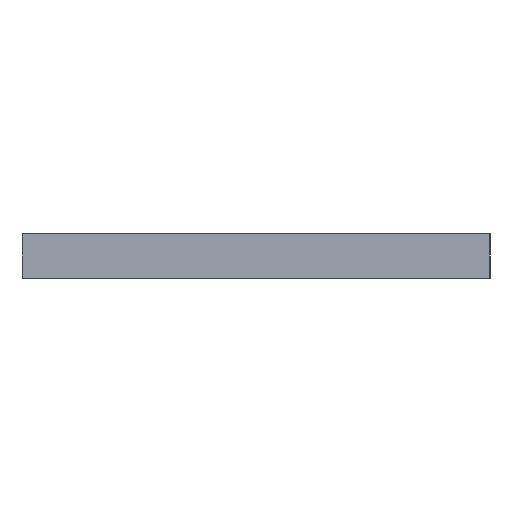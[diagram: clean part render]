
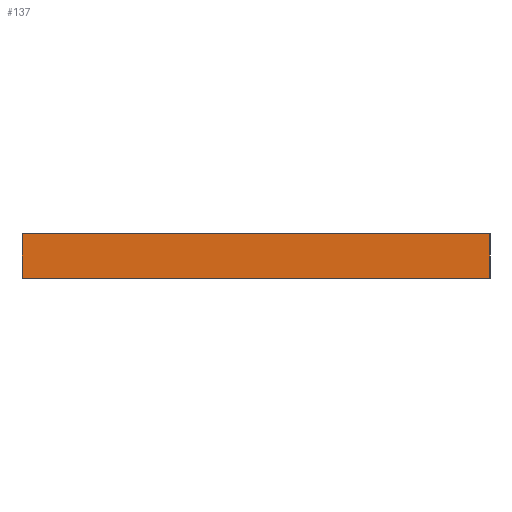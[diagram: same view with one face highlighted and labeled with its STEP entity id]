
A CAD part, left-side view. The second image highlights one B-rep face of the part: STEP entity #137.
In plain terms, the highlighted planar face has unit normal (-1, 0, 0).
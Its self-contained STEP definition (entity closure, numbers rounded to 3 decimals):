
#21 = EDGE_CURVE('',#22,#24,#26,.T.);
#22 = VERTEX_POINT('',#23);
#23 = CARTESIAN_POINT('',(-47.,34.,3.2));
#24 = VERTEX_POINT('',#25);
#25 = CARTESIAN_POINT('',(-47.,34.,0.));
#26 = SURFACE_CURVE('',#27,(#31,#43),.PCURVE_S1.);
#27 = LINE('',#28,#29);
#28 = CARTESIAN_POINT('',(-47.,34.,3.2));
#29 = VECTOR('',#30,1.);
#30 = DIRECTION('',(0.,0.,-1.));
#31 = PCURVE('',#32,#37);
#32 = PLANE('',#33);
#33 = AXIS2_PLACEMENT_3D('',#34,#35,#36);
#34 = CARTESIAN_POINT('',(-47.,34.,3.2));
#35 = DIRECTION('',(0.,-1.,0.));
#36 = DIRECTION('',(1.,0.,0.));
#37 = DEFINITIONAL_REPRESENTATION('',(#38),#42);
#38 = LINE('',#39,#40);
#39 = CARTESIAN_POINT('',(0.,0.));
#40 = VECTOR('',#41,1.);
#41 = DIRECTION('',(0.,-1.));
#42 = ( GEOMETRIC_REPRESENTATION_CONTEXT(2) 
PARAMETRIC_REPRESENTATION_CONTEXT() REPRESENTATION_CONTEXT('2D SPACE',''
  ) );
#43 = PCURVE('',#44,#49);
#44 = PLANE('',#45);
#45 = AXIS2_PLACEMENT_3D('',#46,#47,#48);
#46 = CARTESIAN_POINT('',(-47.,0.,3.2));
#47 = DIRECTION('',(1.,0.,0.));
#48 = DIRECTION('',(0.,1.,0.));
#49 = DEFINITIONAL_REPRESENTATION('',(#50),#54);
#50 = LINE('',#51,#52);
#51 = CARTESIAN_POINT('',(34.,0.));
#52 = VECTOR('',#53,1.);
#53 = DIRECTION('',(0.,-1.));
#54 = ( GEOMETRIC_REPRESENTATION_CONTEXT(2) 
PARAMETRIC_REPRESENTATION_CONTEXT() REPRESENTATION_CONTEXT('2D SPACE',''
  ) );
#72 = PLANE('',#73);
#73 = AXIS2_PLACEMENT_3D('',#74,#75,#76);
#74 = CARTESIAN_POINT('',(0.,17.,0.));
#75 = DIRECTION('',(-0.,0.,-1.));
#76 = DIRECTION('',(0.,1.,0.));
#126 = PLANE('',#127);
#127 = AXIS2_PLACEMENT_3D('',#128,#129,#130);
#128 = CARTESIAN_POINT('',(0.,17.,3.2));
#129 = DIRECTION('',(-0.,0.,-1.));
#130 = DIRECTION('',(0.,1.,0.));
#137 = ADVANCED_FACE('',(#138),#44,.F.);
#138 = FACE_BOUND('',#139,.F.);
#139 = EDGE_LOOP('',(#140,#170,#191,#192));
#140 = ORIENTED_EDGE('',*,*,#141,.T.);
#141 = EDGE_CURVE('',#142,#144,#146,.T.);
#142 = VERTEX_POINT('',#143);
#143 = CARTESIAN_POINT('',(-47.,0.,3.2));
#144 = VERTEX_POINT('',#145);
#145 = CARTESIAN_POINT('',(-47.,0.,0.));
#146 = SURFACE_CURVE('',#147,(#151,#158),.PCURVE_S1.);
#147 = LINE('',#148,#149);
#148 = CARTESIAN_POINT('',(-47.,0.,3.2));
#149 = VECTOR('',#150,1.);
#150 = DIRECTION('',(0.,0.,-1.));
#151 = PCURVE('',#44,#152);
#152 = DEFINITIONAL_REPRESENTATION('',(#153),#157);
#153 = LINE('',#154,#155);
#154 = CARTESIAN_POINT('',(0.,0.));
#155 = VECTOR('',#156,1.);
#156 = DIRECTION('',(0.,-1.));
#157 = ( GEOMETRIC_REPRESENTATION_CONTEXT(2) 
PARAMETRIC_REPRESENTATION_CONTEXT() REPRESENTATION_CONTEXT('2D SPACE',''
  ) );
#158 = PCURVE('',#159,#164);
#159 = PLANE('',#160);
#160 = AXIS2_PLACEMENT_3D('',#161,#162,#163);
#161 = CARTESIAN_POINT('',(47.,0.,3.2));
#162 = DIRECTION('',(-0.,1.,0.));
#163 = DIRECTION('',(-1.,0.,0.));
#164 = DEFINITIONAL_REPRESENTATION('',(#165),#169);
#165 = LINE('',#166,#167);
#166 = CARTESIAN_POINT('',(94.,0.));
#167 = VECTOR('',#168,1.);
#168 = DIRECTION('',(-0.,-1.));
#169 = ( GEOMETRIC_REPRESENTATION_CONTEXT(2) 
PARAMETRIC_REPRESENTATION_CONTEXT() REPRESENTATION_CONTEXT('2D SPACE',''
  ) );
#170 = ORIENTED_EDGE('',*,*,#171,.T.);
#171 = EDGE_CURVE('',#144,#24,#172,.T.);
#172 = SURFACE_CURVE('',#173,(#177,#184),.PCURVE_S1.);
#173 = LINE('',#174,#175);
#174 = CARTESIAN_POINT('',(-47.,0.,0.));
#175 = VECTOR('',#176,1.);
#176 = DIRECTION('',(0.,1.,0.));
#177 = PCURVE('',#44,#178);
#178 = DEFINITIONAL_REPRESENTATION('',(#179),#183);
#179 = LINE('',#180,#181);
#180 = CARTESIAN_POINT('',(0.,-3.2));
#181 = VECTOR('',#182,1.);
#182 = DIRECTION('',(1.,0.));
#183 = ( GEOMETRIC_REPRESENTATION_CONTEXT(2) 
PARAMETRIC_REPRESENTATION_CONTEXT() REPRESENTATION_CONTEXT('2D SPACE',''
  ) );
#184 = PCURVE('',#72,#185);
#185 = DEFINITIONAL_REPRESENTATION('',(#186),#190);
#186 = LINE('',#187,#188);
#187 = CARTESIAN_POINT('',(-17.,-47.));
#188 = VECTOR('',#189,1.);
#189 = DIRECTION('',(1.,0.));
#190 = ( GEOMETRIC_REPRESENTATION_CONTEXT(2) 
PARAMETRIC_REPRESENTATION_CONTEXT() REPRESENTATION_CONTEXT('2D SPACE',''
  ) );
#191 = ORIENTED_EDGE('',*,*,#21,.F.);
#192 = ORIENTED_EDGE('',*,*,#193,.F.);
#193 = EDGE_CURVE('',#142,#22,#194,.T.);
#194 = SURFACE_CURVE('',#195,(#199,#206),.PCURVE_S1.);
#195 = LINE('',#196,#197);
#196 = CARTESIAN_POINT('',(-47.,0.,3.2));
#197 = VECTOR('',#198,1.);
#198 = DIRECTION('',(0.,1.,0.));
#199 = PCURVE('',#44,#200);
#200 = DEFINITIONAL_REPRESENTATION('',(#201),#205);
#201 = LINE('',#202,#203);
#202 = CARTESIAN_POINT('',(0.,0.));
#203 = VECTOR('',#204,1.);
#204 = DIRECTION('',(1.,0.));
#205 = ( GEOMETRIC_REPRESENTATION_CONTEXT(2) 
PARAMETRIC_REPRESENTATION_CONTEXT() REPRESENTATION_CONTEXT('2D SPACE',''
  ) );
#206 = PCURVE('',#126,#207);
#207 = DEFINITIONAL_REPRESENTATION('',(#208),#212);
#208 = LINE('',#209,#210);
#209 = CARTESIAN_POINT('',(-17.,-47.));
#210 = VECTOR('',#211,1.);
#211 = DIRECTION('',(1.,0.));
#212 = ( GEOMETRIC_REPRESENTATION_CONTEXT(2) 
PARAMETRIC_REPRESENTATION_CONTEXT() REPRESENTATION_CONTEXT('2D SPACE',''
  ) );
